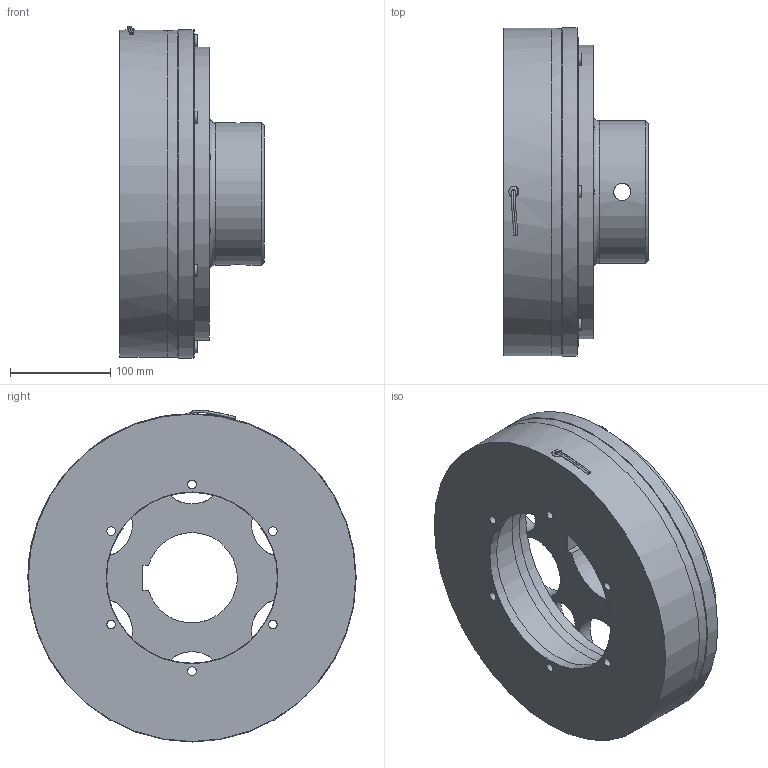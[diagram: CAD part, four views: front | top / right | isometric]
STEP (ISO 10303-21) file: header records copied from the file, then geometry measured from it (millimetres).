
FILE_DESCRIPTION(/* description */ (''),/* implementation_level */ '2;1');
FILE_NAME(/* name */ 'X:\INVENTOR\DISEGNI\08_Freni_Friz_Elettmag_Monodisco\08_28 EMFL_DF\EMFL_DF STEP\08_28_310_12 EMFL310_DF-C-ME@STEP.stp',/* time_stamp */ '2018-04-23T10:58:17+02:00',/* author */ ('stefano'),/* organization */ (''),/* preprocessor_version */ 'ST-DEVELOPER v17',/* originating_system */ 'Autodesk Inventor 2018',/* authorisation */ '');
FILE_SCHEMA (('AUTOMOTIVE_DESIGN { 1 0 10303 214 3 1 1 }'));
Length unit declared in the file: millimetre
Products named in the file (1): 08_28_310_12 EMFL310_DF-C-ME_Substitute_1
Bounding box: 144 x 327 x 330.58 mm (x, y, z)
Volume: 4678330.8 mm3; surface area: 584791.8 mm2
Topology: 3 solids, 3 shells, 509 faces, 1558 edges, 1051 vertices
Faces by surface type: cylinder 301, plane 148, cone 50, torus 7, bspline 3
Full cylindrical faces by diameter (mm): 3 x12, 4 x1, 8.1 x12, 8.376 x6, 8.5 x6, 9 x1, 12 x12, 15 x12, 16 x6, 17.294 x2, 35 x6, 65 x6, 142 x1, 170 x1, 202 x2, 214 x1, 238 x1, 292 x1, 300 x1, 326 x2, 327 x1
Entity records: 19359 total; most frequent: CARTESIAN_POINT 3833, DIRECTION 3555, ORIENTED_EDGE 3106, AXIS2_PLACEMENT_3D 1562, EDGE_CURVE 1553, CIRCLE 1053, VERTEX_POINT 1052, EDGE_LOOP 644
